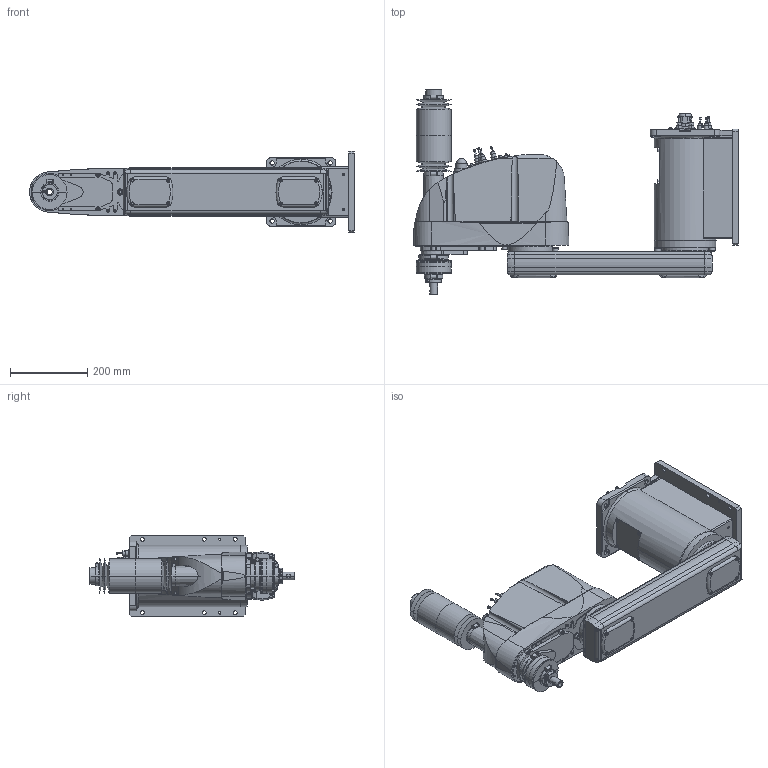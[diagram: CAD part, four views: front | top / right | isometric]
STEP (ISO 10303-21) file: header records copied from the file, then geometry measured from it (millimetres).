
FILE_DESCRIPTION( ( '' ), '1' );
FILE_NAME( '//expscmdclustefs.cadenas.external/client_exchange/iodir/jobs/output/wkb51546706_no0/STEP/G6_651DW_2_14b.stp', '2012-11-23T13:12:30', ( '' ), ( '' ), ' ', ' ', ' ' );
FILE_SCHEMA( ( 'automotive_design' ) );
Length unit declared in the file: millimetre
Products named in the file (8): 1; 2; 3; 4; 5; 6; 7; 8
Bounding box: 840 x 529.5 x 210 mm (x, y, z)
Volume: 23082379.7 mm3; surface area: 1186828.4 mm2
Topology: 8 solids, 8 shells, 1857 faces, 4500 edges, 2860 vertices
Faces by surface type: plane 886, cylinder 652, cone 278, torus 40, sphere 1
Entity records: 109345 total; most frequent: CARTESIAN_POINT 13210, DIRECTION 9610, STYLED_ITEM 9195, PRESENTATION_STYLE_ASSIGNMENT 9195, COLOUR_RGB 9195, ORIENTED_EDGE 8940, EDGE_CURVE 4470, CURVE_STYLE 4470
